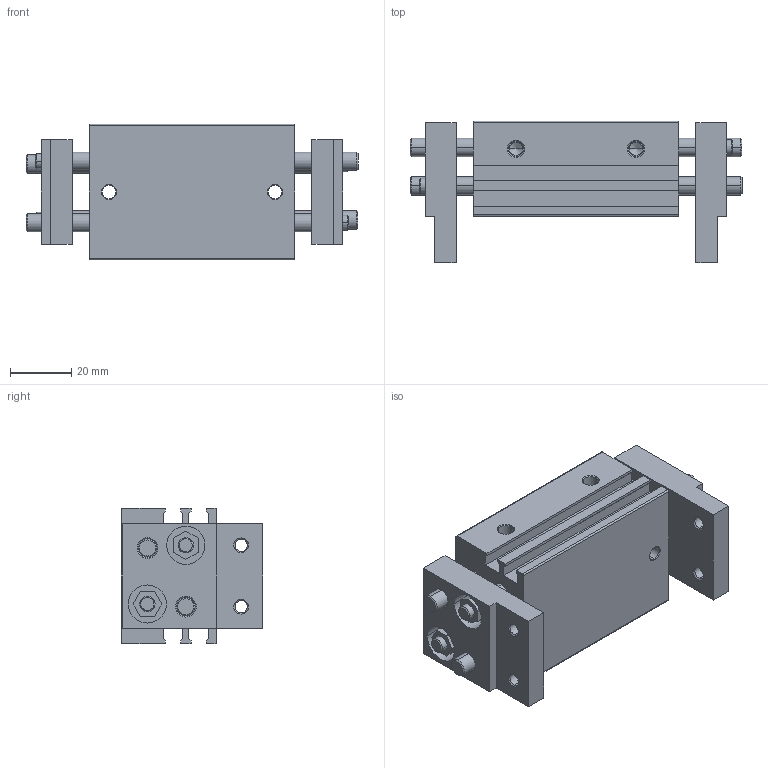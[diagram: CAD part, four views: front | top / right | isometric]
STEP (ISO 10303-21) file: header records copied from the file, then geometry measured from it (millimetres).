
FILE_DESCRIPTION (( 'STEP AP203' ), '1' );
FILE_NAME ('CHL2-10D1.STEP', '2017-06-06T20:27:48', ( '' ), ( '' ), 'SwSTEP 2.0', 'SolidWorks 2016', '' );
FILE_SCHEMA (( 'CONFIG_CONTROL_DESIGN' ));
Length unit declared in the file: millimetre
Products named in the file (3): CHL2-10D1 CORPO; CHL2-10D1DEDO; CHL2-10D1
Assembly tree (3 placements, depth 2):
  CHL2-10D1
    CHL2-10D1 CORPO
    CHL2-10D1DEDO  x2
Bounding box: 108 x 46 x 44 mm (x, y, z)
Volume: 105051.9 mm3; surface area: 42862.9 mm2
Topology: 3 solids, 3 shells, 347 faces, 805 edges, 499 vertices
Faces by surface type: cylinder 127, plane 125, cone 95
Entity records: 7779 total; most frequent: DIRECTION 1394, CARTESIAN_POINT 1247, ORIENTED_EDGE 1198, EDGE_CURVE 599, AXIS2_PLACEMENT_3D 526, VERTEX_POINT 379, VECTOR 342, LINE 342
